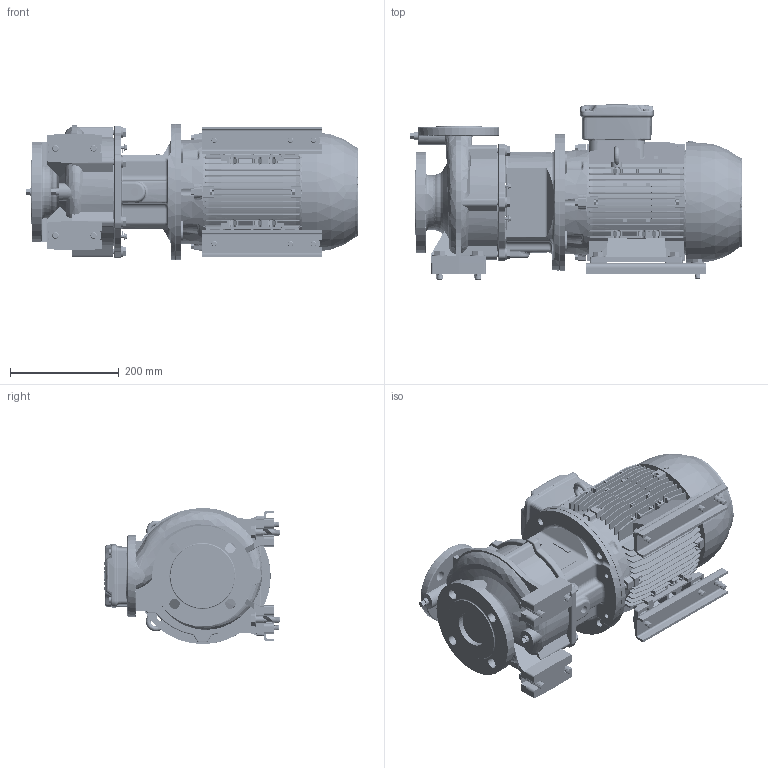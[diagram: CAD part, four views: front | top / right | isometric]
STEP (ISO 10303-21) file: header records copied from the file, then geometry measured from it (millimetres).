
FILE_DESCRIPTION (( 'STEP AP214' ), '1' );
FILE_NAME ('GSD2 40-125_4.0_(112M)_W21.STEP', '2026-07-02T05:18:01', ( '' ), ( '' ), 'SwSTEP 2.0', 'SolidWorks 2024', '' );
FILE_SCHEMA (( 'AUTOMOTIVE_DESIGN' ));
Length unit declared in the file: millimetre
Products named in the file (9): Parametric bolt_SFT-A253B; CGS11-5301_2_3_4_5_CGS11-5301; Parametric bolt_SFT-A305B; 140 x 20 - 271472024; 112M ALIE3_W21T_B35; Parametric Flat Washer_M12; Parametric Flat Washer_M10; GSD2  40-125_4.0_(112M)_W21; 40-125-112M
Assembly tree (26 placements, depth 2):
  GSD2  40-125_4.0_(112M)_W21
    40-125-112M
    112M ALIE3_W21T_B35
    CGS11-5301_2_3_4_5_CGS11-5301  x2
    140 x 20 - 271472024  x2
    Parametric bolt_SFT-A253B  x6
    Parametric bolt_SFT-A305B  x4
    Parametric Flat Washer_M12  x4
    Parametric Flat Washer_M10  x6
Bounding box: 609.3 x 321.5 x 250 mm (x, y, z)
Volume: 17626361.6 mm3; surface area: 1440045.3 mm2
Topology: 49 solids, 51 shells, 5171 faces, 13885 edges, 9086 vertices
Faces by surface type: plane 2690, cylinder 1237, bspline 492, torus 378, cone 363, sphere 11
Entity records: 204156 total; most frequent: CARTESIAN_POINT 92249, ORIENTED_EDGE 25116, DIRECTION 20321, EDGE_CURVE 12558, VERTEX_POINT 8224, LINE 7059, VECTOR 7059, AXIS2_PLACEMENT_3D 6631
